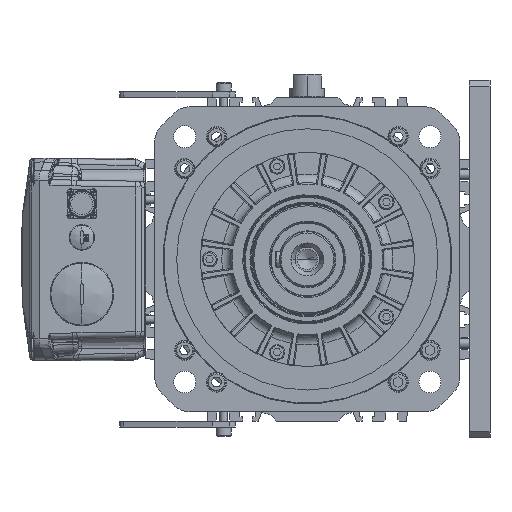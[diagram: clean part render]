
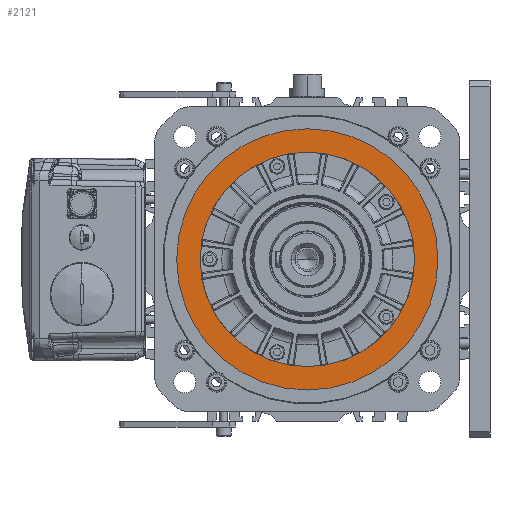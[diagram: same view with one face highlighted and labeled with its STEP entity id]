
A CAD part, left-side view. The second image highlights one B-rep face of the part: STEP entity #2121.
In plain terms, the highlighted planar face has unit normal (-1, 0, 0).
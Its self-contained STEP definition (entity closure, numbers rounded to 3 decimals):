
#604=CARTESIAN_POINT('',(112.02,0.,0.));
#605=DIRECTION('',(-1.,0.,0.));
#606=DIRECTION('',(0.,-1.,0.));
#607=AXIS2_PLACEMENT_3D('',#604,#605,#606);
#613=CARTESIAN_POINT('',(112.02,0.,0.));
#614=DIRECTION('',(1.,0.,0.));
#615=DIRECTION('',(0.,-1.,0.));
#616=AXIS2_PLACEMENT_3D('',#613,#614,#615);
#622=CARTESIAN_POINT('',(112.02,0.,0.));
#623=DIRECTION('',(-1.,0.,0.));
#624=DIRECTION('',(0.,-1.,0.));
#625=AXIS2_PLACEMENT_3D('',#622,#623,#624);
#627=CARTESIAN_POINT('',(112.02,0.,0.));
#628=DIRECTION('',(1.,0.,0.));
#629=DIRECTION('',(0.,-1.,0.));
#630=AXIS2_PLACEMENT_3D('',#627,#628,#629);
#1719=CARTESIAN_POINT('',(112.02,-92.75,0.));
#1721=VERTEX_POINT('',#1719);
#1723=CARTESIAN_POINT('',(112.02,92.75,0.));
#1725=VERTEX_POINT('',#1723);
#1726=CARTESIAN_POINT('',(112.02,-113.,0.));
#1727=CARTESIAN_POINT('',(112.02,113.,0.));
#1728=VERTEX_POINT('',#1726);
#1729=VERTEX_POINT('',#1727);
#2106=CARTESIAN_POINT('',(112.02,0.,0.));
#2107=DIRECTION('',(-1.,0.,0.));
#2108=DIRECTION('',(0.,-1.,0.));
#2109=AXIS2_PLACEMENT_3D('',#2106,#2107,#2108);
#2110=PLANE('',#2109);
#2111=ORIENTED_EDGE('',*,*,#2100,.T.);
#2112=ORIENTED_EDGE('',*,*,#2086,.F.);
#2113=EDGE_LOOP('',(#2111,#2112));
#2114=FACE_OUTER_BOUND('',#2113,.F.);
#2116=ORIENTED_EDGE('',*,*,#2115,.T.);
#2118=ORIENTED_EDGE('',*,*,#2117,.F.);
#2119=EDGE_LOOP('',(#2116,#2118));
#2120=FACE_BOUND('',#2119,.F.);
#2121=ADVANCED_FACE('',(#2114,#2120),#2110,.T.);
#608=CIRCLE('',#607,113.);
#617=CIRCLE('',#616,113.);
#626=CIRCLE('',#625,92.75);
#631=CIRCLE('',#630,92.75);
#2086=EDGE_CURVE('',#1728,#1729,#608,.T.);
#2100=EDGE_CURVE('',#1728,#1729,#617,.T.);
#2115=EDGE_CURVE('',#1721,#1725,#626,.T.);
#2117=EDGE_CURVE('',#1721,#1725,#631,.T.);
